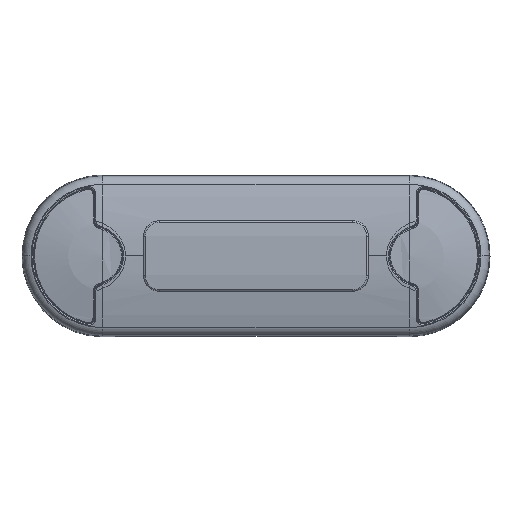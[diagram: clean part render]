
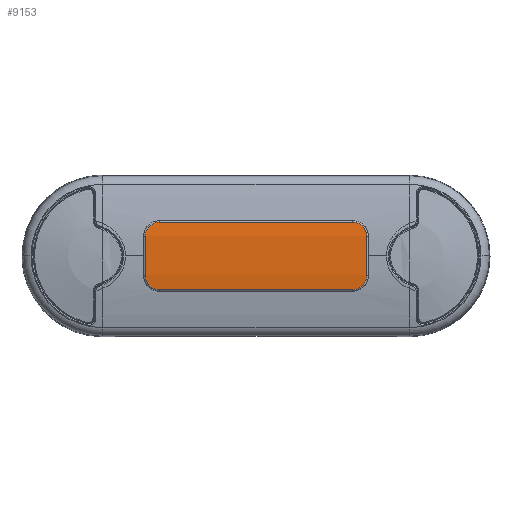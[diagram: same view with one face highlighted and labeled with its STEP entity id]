
A CAD part, top view. The second image highlights one B-rep face of the part: STEP entity #9153.
In plain terms, the highlighted cylindrical face has radius 50.952 mm (diameter 101.903 mm), a partial arc.
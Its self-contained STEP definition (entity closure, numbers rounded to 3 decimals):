
#9075=AXIS2_PLACEMENT_3D('Cylinder Axis2P3D',#9072,#9073,#9074) ;
#8889=CARTESIAN_POINT('Control Point',(-19.946,-3.521,8.539)) ;
#8890=CARTESIAN_POINT('Control Point',(-19.946,-3.464,8.543)) ;
#8891=CARTESIAN_POINT('Control Point',(-19.946,-3.408,8.547)) ;
#8892=CARTESIAN_POINT('Control Point',(-19.946,-3.352,8.55)) ;
#8893=CARTESIAN_POINT('Control Point',(-19.946,-1.946,8.642)) ;
#8894=CARTESIAN_POINT('Control Point',(-19.946,-0.536,8.685)) ;
#8895=CARTESIAN_POINT('Control Point',(-19.946,0.818,8.681)) ;
#8896=CARTESIAN_POINT('Control Point',(-19.946,2.171,8.632)) ;
#8897=CARTESIAN_POINT('Control Point',(-19.946,3.521,8.539)) ;
#8898=CARTESIAN_POINT('Vertex',(-19.946,3.521,8.539)) ;
#8900=CARTESIAN_POINT('Vertex',(-19.946,-3.521,8.539)) ;
#9022=CARTESIAN_POINT('Control Point',(-19.946,3.521,8.539)) ;
#9023=CARTESIAN_POINT('Control Point',(-19.946,3.524,8.539)) ;
#9024=CARTESIAN_POINT('Control Point',(-19.946,3.527,8.538)) ;
#9025=CARTESIAN_POINT('Control Point',(-19.946,3.53,8.538)) ;
#9026=CARTESIAN_POINT('Control Point',(-19.946,3.647,8.53)) ;
#9027=CARTESIAN_POINT('Control Point',(-19.939,3.763,8.522)) ;
#9028=CARTESIAN_POINT('Control Point',(-19.925,3.875,8.513)) ;
#9029=CARTESIAN_POINT('Control Point',(-19.893,4.053,8.499)) ;
#9030=CARTESIAN_POINT('Control Point',(-19.846,4.227,8.485)) ;
#9031=CARTESIAN_POINT('Control Point',(-19.826,4.293,8.48)) ;
#9032=CARTESIAN_POINT('Control Point',(-19.781,4.422,8.468)) ;
#9033=CARTESIAN_POINT('Control Point',(-19.728,4.548,8.457)) ;
#9034=CARTESIAN_POINT('Control Point',(-19.699,4.61,8.452)) ;
#9035=CARTESIAN_POINT('Control Point',(-19.607,4.793,8.435)) ;
#9036=CARTESIAN_POINT('Control Point',(-19.497,4.967,8.418)) ;
#9037=CARTESIAN_POINT('Control Point',(-19.416,5.077,8.407)) ;
#9038=CARTESIAN_POINT('Control Point',(-19.241,5.288,8.386)) ;
#9039=CARTESIAN_POINT('Control Point',(-19.04,5.473,8.366)) ;
#9040=CARTESIAN_POINT('Control Point',(-18.934,5.56,8.356)) ;
#9041=CARTESIAN_POINT('Control Point',(-18.655,5.758,8.334)) ;
#9042=CARTESIAN_POINT('Control Point',(-18.346,5.907,8.317)) ;
#9043=CARTESIAN_POINT('Control Point',(-18.152,5.978,8.309)) ;
#9044=CARTESIAN_POINT('Control Point',(-17.917,6.037,8.302)) ;
#9045=CARTESIAN_POINT('Control Point',(-17.677,6.067,8.298)) ;
#9046=CARTESIAN_POINT('Control Point',(-17.643,6.071,8.298)) ;
#9047=CARTESIAN_POINT('Control Point',(-17.591,6.075,8.297)) ;
#9048=CARTESIAN_POINT('Control Point',(-17.539,6.078,8.297)) ;
#9049=CARTESIAN_POINT('Control Point',(-17.522,6.079,8.297)) ;
#9050=CARTESIAN_POINT('Control Point',(-17.487,6.081,8.296)) ;
#9051=CARTESIAN_POINT('Control Point',(-17.452,6.082,8.296)) ;
#9052=CARTESIAN_POINT('Control Point',(-17.435,6.082,8.296)) ;
#9053=CARTESIAN_POINT('Control Point',(-17.417,6.082,8.296)) ;
#9054=CARTESIAN_POINT('Control Point',(-17.4,6.082,8.296)) ;
#9055=CARTESIAN_POINT('Vertex',(-17.4,6.082,8.296)) ;
#9072=CARTESIAN_POINT('Axis2P3D Location',(-0.003,0.,-42.292)) ;
#9078=CARTESIAN_POINT('Control Point',(19.947,3.521,8.538)) ;
#9079=CARTESIAN_POINT('Control Point',(19.946,3.917,8.51)) ;
#9080=CARTESIAN_POINT('Control Point',(19.867,4.313,8.479)) ;
#9081=CARTESIAN_POINT('Control Point',(19.715,4.69,8.445)) ;
#9082=CARTESIAN_POINT('Control Point',(19.404,5.174,8.397)) ;
#9083=CARTESIAN_POINT('Control Point',(18.981,5.54,8.358)) ;
#9084=CARTESIAN_POINT('Control Point',(18.843,5.641,8.346)) ;
#9085=CARTESIAN_POINT('Control Point',(18.601,5.788,8.33)) ;
#9086=CARTESIAN_POINT('Control Point',(18.341,5.902,8.317)) ;
#9087=CARTESIAN_POINT('Control Point',(18.235,5.941,8.312)) ;
#9088=CARTESIAN_POINT('Control Point',(18.007,6.013,8.304)) ;
#9089=CARTESIAN_POINT('Control Point',(17.773,6.058,8.298)) ;
#9090=CARTESIAN_POINT('Control Point',(17.646,6.074,8.296)) ;
#9091=CARTESIAN_POINT('Control Point',(17.524,6.082,8.295)) ;
#9092=CARTESIAN_POINT('Control Point',(17.4,6.082,8.295)) ;
#9093=CARTESIAN_POINT('Vertex',(19.947,3.521,8.538)) ;
#9095=CARTESIAN_POINT('Vertex',(17.4,6.082,8.295)) ;
#9099=CARTESIAN_POINT('Control Point',(19.947,3.521,8.538)) ;
#9100=CARTESIAN_POINT('Control Point',(19.947,1.177,8.7)) ;
#9101=CARTESIAN_POINT('Control Point',(19.947,-1.177,8.7)) ;
#9102=CARTESIAN_POINT('Control Point',(19.947,-3.521,8.538)) ;
#9103=CARTESIAN_POINT('Vertex',(19.947,-3.521,8.538)) ;
#9107=CARTESIAN_POINT('Control Point',(19.947,-3.521,8.538)) ;
#9108=CARTESIAN_POINT('Control Point',(19.947,-4.336,8.481)) ;
#9109=CARTESIAN_POINT('Control Point',(19.613,-5.121,8.411)) ;
#9110=CARTESIAN_POINT('Control Point',(18.993,-5.748,8.336)) ;
#9111=CARTESIAN_POINT('Control Point',(18.212,-6.082,8.295)) ;
#9112=CARTESIAN_POINT('Control Point',(17.4,-6.082,8.295)) ;
#9113=CARTESIAN_POINT('Vertex',(17.4,-6.082,8.295)) ;
#9117=CARTESIAN_POINT('Control Point',(-17.4,-6.082,8.296)) ;
#9118=CARTESIAN_POINT('Control Point',(17.4,-6.082,8.295)) ;
#9119=CARTESIAN_POINT('Vertex',(-17.4,-6.082,8.296)) ;
#9123=CARTESIAN_POINT('Control Point',(-19.946,-3.521,8.539)) ;
#9124=CARTESIAN_POINT('Control Point',(-19.946,-3.917,8.511)) ;
#9125=CARTESIAN_POINT('Control Point',(-19.867,-4.313,8.48)) ;
#9126=CARTESIAN_POINT('Control Point',(-19.715,-4.69,8.446)) ;
#9127=CARTESIAN_POINT('Control Point',(-19.404,-5.174,8.398)) ;
#9128=CARTESIAN_POINT('Control Point',(-18.981,-5.54,8.359)) ;
#9129=CARTESIAN_POINT('Control Point',(-18.842,-5.641,8.348)) ;
#9130=CARTESIAN_POINT('Control Point',(-18.6,-5.788,8.331)) ;
#9131=CARTESIAN_POINT('Control Point',(-18.341,-5.901,8.318)) ;
#9132=CARTESIAN_POINT('Control Point',(-18.235,-5.941,8.313)) ;
#9133=CARTESIAN_POINT('Control Point',(-18.007,-6.013,8.305)) ;
#9134=CARTESIAN_POINT('Control Point',(-17.773,-6.058,8.299)) ;
#9135=CARTESIAN_POINT('Control Point',(-17.646,-6.074,8.297)) ;
#9136=CARTESIAN_POINT('Control Point',(-17.524,-6.082,8.296)) ;
#9137=CARTESIAN_POINT('Control Point',(-17.4,-6.082,8.296)) ;
#9140=CARTESIAN_POINT('Control Point',(-17.4,6.082,8.296)) ;
#9141=CARTESIAN_POINT('Control Point',(17.4,6.082,8.295)) ;
#9073=DIRECTION('Axis2P3D Direction',(1.,0.,0.)) ;
#9074=DIRECTION('Axis2P3D XDirection',(0.,0.,-1.)) ;
#9144=ORIENTED_EDGE('',*,*,#9097,.F.) ;
#9145=ORIENTED_EDGE('',*,*,#9105,.F.) ;
#9146=ORIENTED_EDGE('',*,*,#9115,.F.) ;
#9147=ORIENTED_EDGE('',*,*,#9121,.F.) ;
#9148=ORIENTED_EDGE('',*,*,#9138,.F.) ;
#9149=ORIENTED_EDGE('',*,*,#8902,.F.) ;
#9150=ORIENTED_EDGE('',*,*,#9057,.F.) ;
#9151=ORIENTED_EDGE('',*,*,#9142,.F.) ;
#9153=ADVANCED_FACE('Surface.1',(#9152),#9076,.F.) ;
#8888=B_SPLINE_CURVE_WITH_KNOTS('',5,(#8889,#8890,#8891,#8892,#8893,#8894,#8895,#8896,#8897),.UNSPECIFIED.,.F.,.U.,(6,3,6),(7.646,8.13,19.736),.UNSPECIFIED.) ;
#9021=B_SPLINE_CURVE_WITH_KNOTS('',5,(#9022,#9023,#9024,#9025,#9026,#9027,#9028,#9029,#9030,#9031,#9032,#9033,#9034,#9035,#9036,#9037,#9038,#9039,#9040,#9041,#9042,#9043,#9044,#9045,#9046,#9047,#9048,#9049,#9050,#9051,#9052,#9053,#9054),.UNSPECIFIED.,.F.,.U.,(6,3,3,3,3,3,3,3,3,3,6),(3.344,3.375,4.452,5.114,5.775,7.1,8.425,10.42,10.753,10.919,11.086),.UNSPECIFIED.) ;
#9077=B_SPLINE_CURVE_WITH_KNOTS('',5,(#9078,#9079,#9080,#9081,#9082,#9083,#9084,#9085,#9086,#9087,#9088,#9089,#9090,#9091,#9092),.UNSPECIFIED.,.F.,.U.,(6,3,3,3,6),(2.829,6.532,8.122,9.184,10.36),.UNSPECIFIED.) ;
#9098=B_SPLINE_CURVE_WITH_KNOTS('',3,(#9099,#9100,#9101,#9102),.UNSPECIFIED.,.F.,.U.,(4,4),(7.646,19.736),.UNSPECIFIED.) ;
#9106=B_SPLINE_CURVE_WITH_KNOTS('',5,(#9107,#9108,#9109,#9110,#9111,#9112),.UNSPECIFIED.,.F.,.U.,(6,6),(3.344,11.086),.UNSPECIFIED.) ;
#9116=B_SPLINE_CURVE_WITH_KNOTS('',1,(#9117,#9118),.UNSPECIFIED.,.F.,.U.,(2,2),(-17.4,17.4),.UNSPECIFIED.) ;
#9122=B_SPLINE_CURVE_WITH_KNOTS('',5,(#9123,#9124,#9125,#9126,#9127,#9128,#9129,#9130,#9131,#9132,#9133,#9134,#9135,#9136,#9137),.UNSPECIFIED.,.F.,.U.,(6,3,3,3,6),(2.829,6.532,8.122,9.184,10.36),.UNSPECIFIED.) ;
#9139=B_SPLINE_CURVE_WITH_KNOTS('',1,(#9140,#9141),.UNSPECIFIED.,.F.,.U.,(2,2),(-17.4,17.4),.UNSPECIFIED.) ;
#9076=CYLINDRICAL_SURFACE('generated cylinder',#9075,50.952) ;
#8902=EDGE_CURVE('',#8899,#8901,#8888,.F.) ;
#9057=EDGE_CURVE('',#9056,#8899,#9021,.F.) ;
#9097=EDGE_CURVE('',#9094,#9096,#9077,.T.) ;
#9105=EDGE_CURVE('',#9104,#9094,#9098,.F.) ;
#9115=EDGE_CURVE('',#9114,#9104,#9106,.F.) ;
#9121=EDGE_CURVE('',#9120,#9114,#9116,.T.) ;
#9138=EDGE_CURVE('',#8901,#9120,#9122,.T.) ;
#9142=EDGE_CURVE('',#9096,#9056,#9139,.F.) ;
#9143=EDGE_LOOP('',(#9144,#9145,#9146,#9147,#9148,#9149,#9150,#9151)) ;
#9152=FACE_OUTER_BOUND('',#9143,.T.) ;
#8899=VERTEX_POINT('',#8898) ;
#8901=VERTEX_POINT('',#8900) ;
#9056=VERTEX_POINT('',#9055) ;
#9094=VERTEX_POINT('',#9093) ;
#9096=VERTEX_POINT('',#9095) ;
#9104=VERTEX_POINT('',#9103) ;
#9114=VERTEX_POINT('',#9113) ;
#9120=VERTEX_POINT('',#9119) ;
